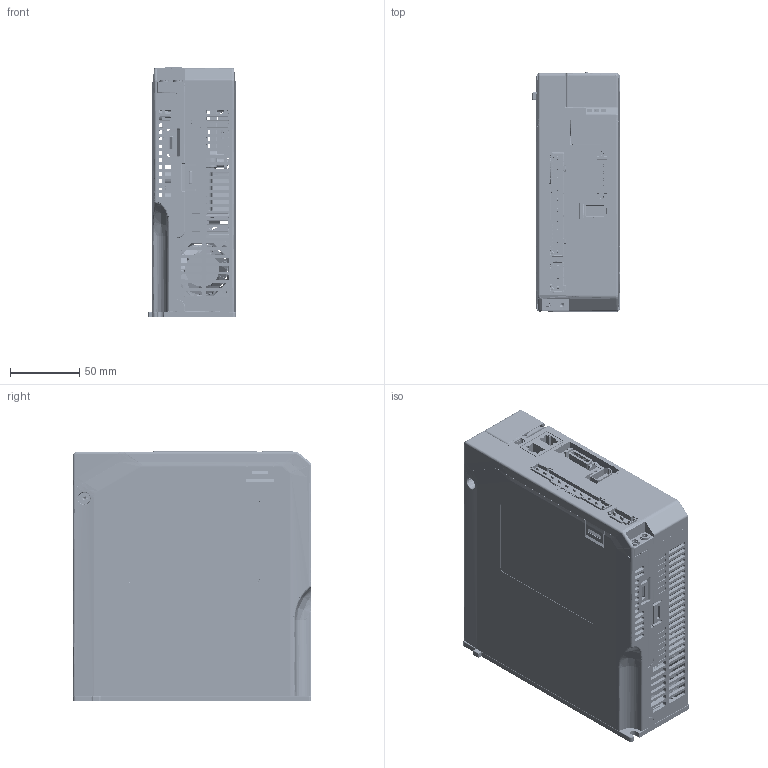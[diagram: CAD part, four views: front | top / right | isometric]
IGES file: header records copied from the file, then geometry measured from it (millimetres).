
Start section: SolidWorks IGES file using analytic representation for surfaces
Global section: file name: Z:\Products\Servo\08.2024\UNITRONICS\B5 & E5-S Drivers\400VAC ,Rated power:1kW~1.5KW EtherCAT\400VAC ,Rated power_1kW~1.5KW EtherCAT.IGS; native system: SolidWorks 2022; preprocessor: SolidWorks 2022; author: OfirZ; date: 240915.094943; units: millimetre
Bounding box: 63 x 172.3 x 181 mm (x, y, z)
Surface area: 526979.4 mm2 (no closed solid volume)
Topology: 0 solids, 0 shells, 17588 faces, 139890 edges, 139314 vertices
Faces by surface type: bspline 12269, revolution 5319
